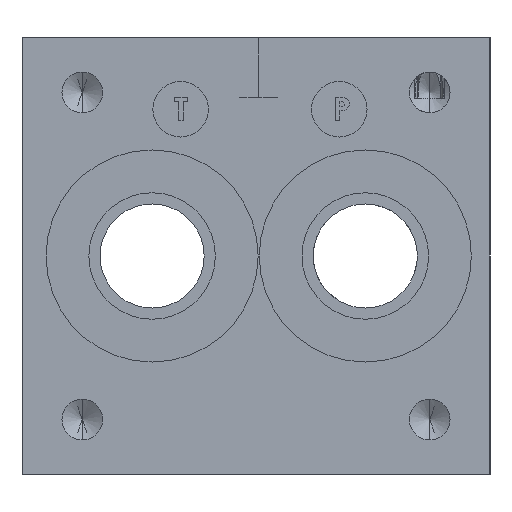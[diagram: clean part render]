
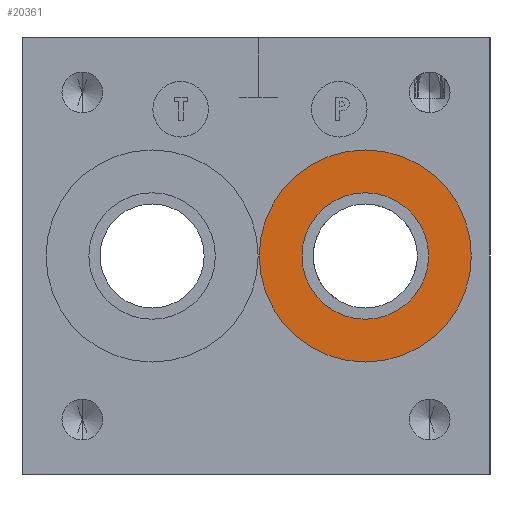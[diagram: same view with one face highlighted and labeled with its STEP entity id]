
A CAD part, left-side view. The second image highlights one B-rep face of the part: STEP entity #20361.
In plain terms, the highlighted planar face has unit normal (-1, 0, 0).
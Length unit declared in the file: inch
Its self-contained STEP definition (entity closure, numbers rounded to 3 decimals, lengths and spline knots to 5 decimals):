
#211 = CARTESIAN_POINT ( 'NONE',  ( 0.031, 0.786, 1.375 ) ) ;
#215 = EDGE_CURVE ( 'NONE', #4084, #4933, #27369, .T. ) ;
#807 = VERTEX_POINT ( 'NONE', #935 ) ;
#935 = CARTESIAN_POINT ( 'NONE',  ( 0.031, 0.786, 0.97615 ) ) ;
#976 = AXIS2_PLACEMENT_3D ( 'NONE', #14815, #14788, #14783 ) ;
#2497 = DIRECTION ( 'NONE',  ( 0., 0., 1. ) ) ;
#3279 = ORIENTED_EDGE ( 'NONE', *, *, #28723, .F. ) ;
#3357 = DIRECTION ( 'NONE',  ( 1., 0., 0. ) ) ;
#3768 = FACE_OUTER_BOUND ( 'NONE', #23799, .T. ) ;
#4084 = VERTEX_POINT ( 'NONE', #23565 ) ;
#4933 = VERTEX_POINT ( 'NONE', #11319 ) ;
#7319 = CIRCLE ( 'NONE', #28496, 0.6684 ) ;
#7353 = DIRECTION ( 'NONE',  ( -1., 0., 0. ) ) ;
#7540 = ORIENTED_EDGE ( 'NONE', *, *, #19931, .F. ) ;
#8893 = DIRECTION ( 'NONE',  ( -1., 0., 0. ) ) ;
#11319 = CARTESIAN_POINT ( 'NONE',  ( 0.031, 0.786, 0.7066 ) ) ;
#14402 = AXIS2_PLACEMENT_3D ( 'NONE', #27727, #3357, #19110 ) ;
#14487 = PLANE ( 'NONE',  #14402 ) ;
#14783 = DIRECTION ( 'NONE',  ( 0., 0., 1. ) ) ;
#14788 = DIRECTION ( 'NONE',  ( -1., 0., 0. ) ) ;
#14815 = CARTESIAN_POINT ( 'NONE',  ( 0.031, 0.786, 1.375 ) ) ;
#15646 = ORIENTED_EDGE ( 'NONE', *, *, #215, .T. ) ;
#16016 = DIRECTION ( 'NONE',  ( -1., 0., 0. ) ) ;
#16199 = CARTESIAN_POINT ( 'NONE',  ( 0.031, 0.786, 1.77385 ) ) ;
#16341 = ORIENTED_EDGE ( 'NONE', *, *, #20184, .T. ) ;
#19110 = DIRECTION ( 'NONE',  ( 0., 0., -1. ) ) ;
#19931 = EDGE_CURVE ( 'NONE', #807, #24295, #24779, .T. ) ;
#20184 = EDGE_CURVE ( 'NONE', #4933, #4084, #7319, .T. ) ;
#20361 = ADVANCED_FACE ( 'NONE', ( #21008, #3768 ), #14487, .F. ) ;
#20791 = CARTESIAN_POINT ( 'NONE',  ( 0.031, 0.786, 1.375 ) ) ;
#21008 = FACE_BOUND ( 'NONE', #27197, .T. ) ;
#22293 = CARTESIAN_POINT ( 'NONE',  ( 0.031, 0.786, 1.375 ) ) ;
#22966 = DIRECTION ( 'NONE',  ( 0., 0., 1. ) ) ;
#23173 = AXIS2_PLACEMENT_3D ( 'NONE', #211, #16016, #2497 ) ;
#23437 = AXIS2_PLACEMENT_3D ( 'NONE', #20791, #7353, #22966 ) ;
#23565 = CARTESIAN_POINT ( 'NONE',  ( 0.031, 0.786, 2.0434 ) ) ;
#23799 = EDGE_LOOP ( 'NONE', ( #15646, #16341 ) ) ;
#24295 = VERTEX_POINT ( 'NONE', #16199 ) ;
#24494 = DIRECTION ( 'NONE',  ( 0., 0., 1. ) ) ;
#24577 = CIRCLE ( 'NONE', #23173, 0.39885 ) ;
#24779 = CIRCLE ( 'NONE', #23437, 0.39885 ) ;
#27197 = EDGE_LOOP ( 'NONE', ( #3279, #7540 ) ) ;
#27369 = CIRCLE ( 'NONE', #976, 0.6684 ) ;
#27727 = CARTESIAN_POINT ( 'NONE',  ( 0.031, 0.786, 1.375 ) ) ;
#28496 = AXIS2_PLACEMENT_3D ( 'NONE', #22293, #8893, #24494 ) ;
#28723 = EDGE_CURVE ( 'NONE', #24295, #807, #24577, .T. ) ;
